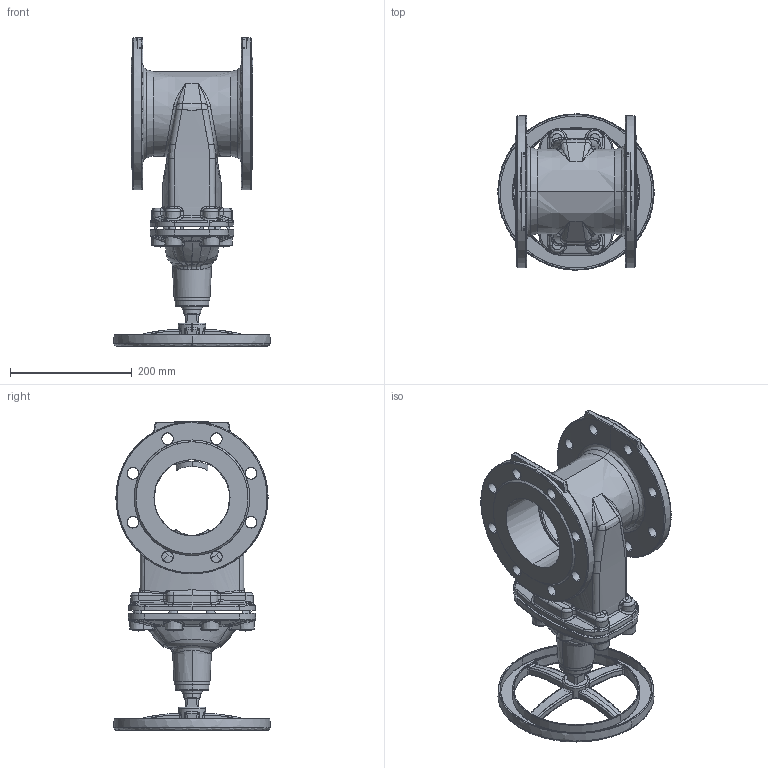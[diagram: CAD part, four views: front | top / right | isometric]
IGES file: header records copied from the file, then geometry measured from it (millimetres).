
Start section: SolidWorks IGES file using analytic representation for surfaces
Global section: file name: H:\BE BIBLIOTHEQUE 3D\BE SECTION 09 - ROBINETS ADDUCTION EAU\VO - Vanne opercule caoutchouc\VOC 4241C\JINMAO\CAO\VOC4241C-00\DN 125\VOC4241C-00EP0125.IGS; native system: SolidWorks 2020; preprocessor: SolidWorks 2020; author: k.gigout; date: 211117.163632; units: millimetre
Bounding box: 257.5 x 257.5 x 507.1 mm (x, y, z)
Surface area: 587381.8 mm2 (no closed solid volume)
Topology: 0 solids, 0 shells, 991 faces, 13846 edges, 13833 vertices
Faces by surface type: bspline 742, revolution 249
